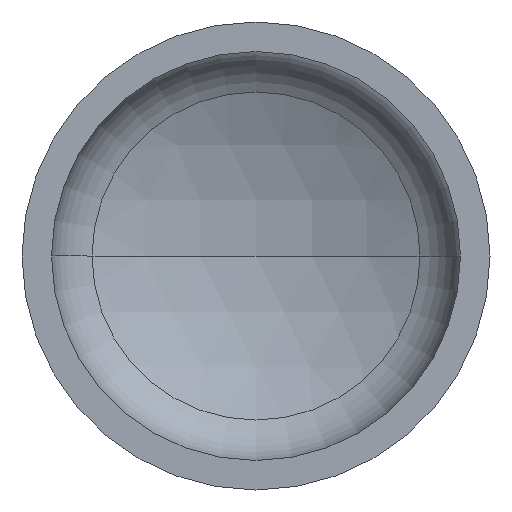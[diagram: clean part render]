
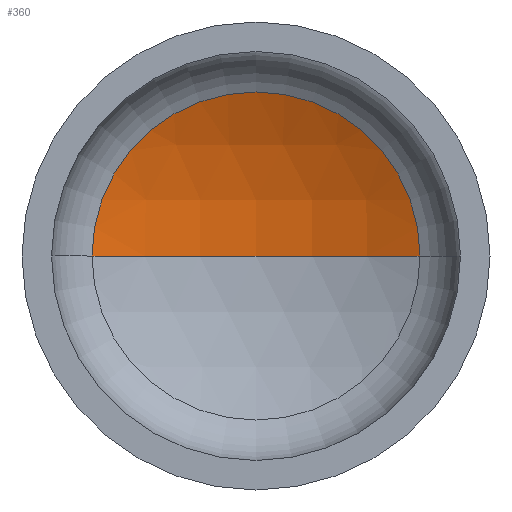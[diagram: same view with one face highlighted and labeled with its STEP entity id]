
A CAD part, front view. The second image highlights one B-rep face of the part: STEP entity #360.
In plain terms, the highlighted spherical face has radius 1040 mm.
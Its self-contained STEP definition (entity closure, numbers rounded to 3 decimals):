
#7 = VERTEX_POINT ( 'NONE', #353 ) ;
#12 = EDGE_LOOP ( 'NONE', ( #52, #17, #90 ) ) ;
#17 = ORIENTED_EDGE ( 'NONE', *, *, #355, .T. ) ;
#22 = AXIS2_PLACEMENT_3D ( 'NONE', #194, #357, #266 ) ;
#29 = VERTEX_POINT ( 'NONE', #282 ) ;
#40 = AXIS2_PLACEMENT_3D ( 'NONE', #256, #185, #56 ) ;
#52 = ORIENTED_EDGE ( 'NONE', *, *, #397, .F. ) ;
#56 = DIRECTION ( 'NONE',  ( -1., 0., 0. ) ) ;
#64 = VERTEX_POINT ( 'NONE', #238 ) ;
#70 = AXIS2_PLACEMENT_3D ( 'NONE', #284, #122, #235 ) ;
#85 = CARTESIAN_POINT ( 'NONE',  ( 0., -655.1, 0. ) ) ;
#90 = ORIENTED_EDGE ( 'NONE', *, *, #351, .T. ) ;
#118 = CIRCLE ( 'NONE', #302, 1040. ) ;
#122 = DIRECTION ( 'NONE',  ( 0., -1., 0. ) ) ;
#133 = DIRECTION ( 'NONE',  ( 1., 0., 0. ) ) ;
#185 = DIRECTION ( 'NONE',  ( 0., 0., -1. ) ) ;
#194 = CARTESIAN_POINT ( 'NONE',  ( 0., -655.1, 0. ) ) ;
#235 = DIRECTION ( 'NONE',  ( 1., 0., 0. ) ) ;
#238 = CARTESIAN_POINT ( 'NONE',  ( -455.619, 279.786, 0. ) ) ;
#256 = CARTESIAN_POINT ( 'NONE',  ( 0., -655.1, 0. ) ) ;
#266 = DIRECTION ( 'NONE',  ( -1., 0., 0. ) ) ;
#273 = SPHERICAL_SURFACE ( 'NONE', #22, 1040. ) ;
#279 = CIRCLE ( 'NONE', #40, 1040. ) ;
#282 = CARTESIAN_POINT ( 'NONE',  ( 455.619, 279.786, 0. ) ) ;
#284 = CARTESIAN_POINT ( 'NONE',  ( 0., 279.786, 0. ) ) ;
#292 = DIRECTION ( 'NONE',  ( 0., 0., 1. ) ) ;
#302 = AXIS2_PLACEMENT_3D ( 'NONE', #85, #292, #133 ) ;
#346 = FACE_OUTER_BOUND ( 'NONE', #12, .T. ) ;
#351 = EDGE_CURVE ( 'NONE', #29, #64, #405, .T. ) ;
#353 = CARTESIAN_POINT ( 'NONE',  ( 0., 384.9, 0. ) ) ;
#355 = EDGE_CURVE ( 'NONE', #7, #29, #279, .T. ) ;
#357 = DIRECTION ( 'NONE',  ( 0., 0., -1. ) ) ;
#360 = ADVANCED_FACE ( 'NONE', ( #346 ), #273, .F. ) ;
#397 = EDGE_CURVE ( 'NONE', #7, #64, #118, .T. ) ;
#405 = CIRCLE ( 'NONE', #70, 455.619 ) ;
